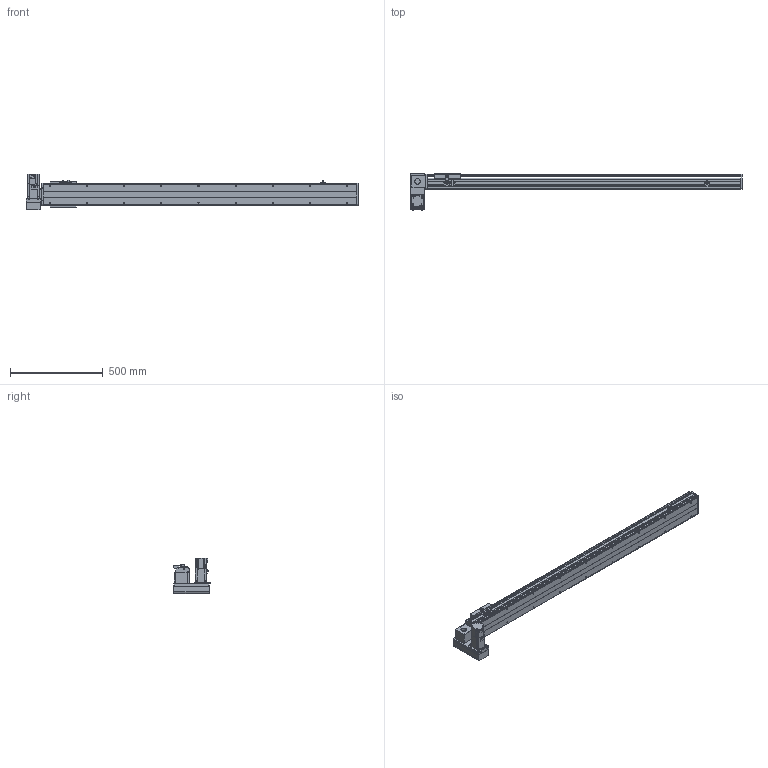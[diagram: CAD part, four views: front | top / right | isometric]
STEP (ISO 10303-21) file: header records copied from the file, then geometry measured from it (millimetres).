
FILE_DESCRIPTION(/* description */ ('STEP AP214'),/* implementation_level */ '2;1');
FILE_NAME(/* name */ 'PBS120-P40-S1400-LD-T40-C1-N(0)',/* time_stamp */ '2022-06-06T02:17:10+02:00',/* author */ ('License CC BY-ND 4.0'),/* organization */ ('CADENAS'),/* preprocessor_version */ 'ST-DEVELOPER v18.102',/* originating_system */ 'PARTsolutions',/* authorisation */ ' ');
FILE_SCHEMA (('AP242_MANAGED_MODEL_BASED_3D_ENGINEERING_MIM_LF { 1 0 10303 442 1 1 4 }','AUTOMOTIVE_DESIGN {1 0 10303 214 3 1 1}'));
Length unit declared in the file: millimetre
Products named in the file (7): PBS120-P40-S1400-LD-T40-C1-N(0); PBS120_sensor; PBS120_plant; PBS120_sliser; T40-p1; PBS120T-LD_motors; PBS120-S1400()_body
Assembly tree (8 placements, depth 2):
  PBS120-P40-S1400-LD-T40-C1-N(0)
    PBS120_sensor  x3
    PBS120_plant
    PBS120_sliser
    T40-p1
    PBS120T-LD_motors
    PBS120-S1400()_body
Bounding box: 1786 x 196 x 189.7 mm (x, y, z)
Volume: 7263382.4 mm3; surface area: 1450920.6 mm2
Topology: 8 solids, 8 shells, 834 faces, 2166 edges, 1393 vertices
Faces by surface type: plane 551, cylinder 231, cone 50, torus 2
Full cylindrical faces by diameter (mm): 2.459 x6, 3.242 x4, 4 x2, 4.134 x4, 4.5 x10, 4.917 x22, 5.5 x11, 6 x2, 6.6 x1, 7 x2, 8.5 x4, 9 x4, 12 x1, 14 x1, 30 x2, 40 x1, 50 x2
Entity records: 21714 total; most frequent: DIRECTION 3764, CARTESIAN_POINT 3695, ORIENTED_EDGE 3514, EDGE_CURVE 1757, AXIS2_PLACEMENT_3D 1268, LINE 1228, VECTOR 1228, VERTEX_POINT 1199
